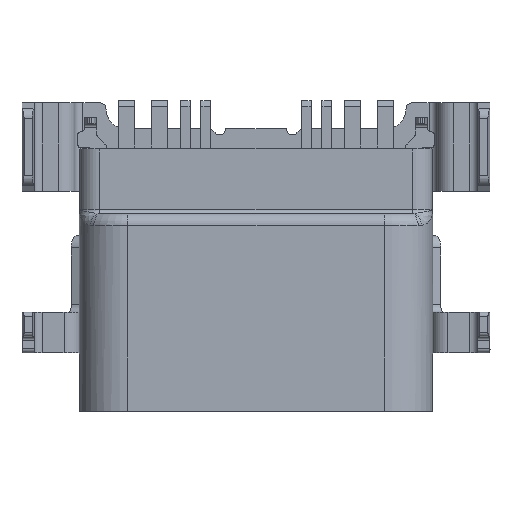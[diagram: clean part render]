
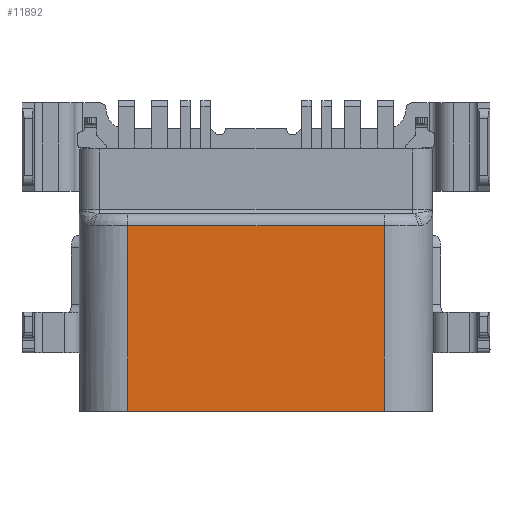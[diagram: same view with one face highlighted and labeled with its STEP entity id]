
A CAD part, top view. The second image highlights one B-rep face of the part: STEP entity #11892.
In plain terms, the highlighted planar face has unit normal (0, 0, 1).
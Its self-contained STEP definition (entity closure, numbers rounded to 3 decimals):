
#669 = LINE ( 'NONE', #12166, #4686 ) ;
#827 = AXIS2_PLACEMENT_3D ( 'NONE', #18629, #1895, #13512 ) ;
#1895 = DIRECTION ( 'NONE',  ( 0., 0., 1. ) ) ;
#2642 = CARTESIAN_POINT ( 'NONE',  ( 3.175, 2.3, 1.48 ) ) ;
#3298 = EDGE_CURVE ( 'NONE', #8718, #20240, #669, .T. ) ;
#3467 = ORIENTED_EDGE ( 'NONE', *, *, #17434, .T. ) ;
#3914 = CARTESIAN_POINT ( 'NONE',  ( 3.175, 4.6, 1.48 ) ) ;
#4345 = LINE ( 'NONE', #9339, #14778 ) ;
#4553 = EDGE_CURVE ( 'NONE', #20046, #8718, #20887, .T. ) ;
#4686 = VECTOR ( 'NONE', #7070, 1000. ) ;
#5900 = ORIENTED_EDGE ( 'NONE', *, *, #3298, .T. ) ;
#6004 = DIRECTION ( 'NONE',  ( 0., 1., 0. ) ) ;
#6541 = DIRECTION ( 'NONE',  ( -1., 0., 0. ) ) ;
#6859 = EDGE_LOOP ( 'NONE', ( #3467, #14481, #18500, #5900 ) ) ;
#6893 = FACE_OUTER_BOUND ( 'NONE', #6859, .T. ) ;
#7070 = DIRECTION ( 'NONE',  ( -1., 0., 0. ) ) ;
#7133 = CARTESIAN_POINT ( 'NONE',  ( -3.175, 0., 1.48 ) ) ;
#8152 = VECTOR ( 'NONE', #6541, 1000. ) ;
#8172 = LINE ( 'NONE', #16624, #8152 ) ;
#8718 = VERTEX_POINT ( 'NONE', #3914 ) ;
#9339 = CARTESIAN_POINT ( 'NONE',  ( -3.175, 2.486, 1.48 ) ) ;
#11892 = ADVANCED_FACE ( 'NONE', ( #6893 ), #17102, .T. ) ;
#12166 = CARTESIAN_POINT ( 'NONE',  ( 0., 4.6, 1.48 ) ) ;
#12278 = CARTESIAN_POINT ( 'NONE',  ( 3.175, 0., 1.48 ) ) ;
#12925 = EDGE_CURVE ( 'NONE', #20046, #13987, #8172, .T. ) ;
#13512 = DIRECTION ( 'NONE',  ( 1., 0., 0. ) ) ;
#13987 = VERTEX_POINT ( 'NONE', #7133 ) ;
#14481 = ORIENTED_EDGE ( 'NONE', *, *, #12925, .F. ) ;
#14778 = VECTOR ( 'NONE', #16181, 1000. ) ;
#15924 = CARTESIAN_POINT ( 'NONE',  ( -3.175, 4.6, 1.48 ) ) ;
#16181 = DIRECTION ( 'NONE',  ( 0., -1., 0. ) ) ;
#16624 = CARTESIAN_POINT ( 'NONE',  ( 0., 0., 1.48 ) ) ;
#17102 = PLANE ( 'NONE',  #827 ) ;
#17434 = EDGE_CURVE ( 'NONE', #20240, #13987, #4345, .T. ) ;
#18500 = ORIENTED_EDGE ( 'NONE', *, *, #4553, .T. ) ;
#18629 = CARTESIAN_POINT ( 'NONE',  ( -3.302, -0.092, 1.48 ) ) ;
#20046 = VERTEX_POINT ( 'NONE', #12278 ) ;
#20240 = VERTEX_POINT ( 'NONE', #15924 ) ;
#20887 = LINE ( 'NONE', #2642, #21009 ) ;
#21009 = VECTOR ( 'NONE', #6004, 1000. ) ;
